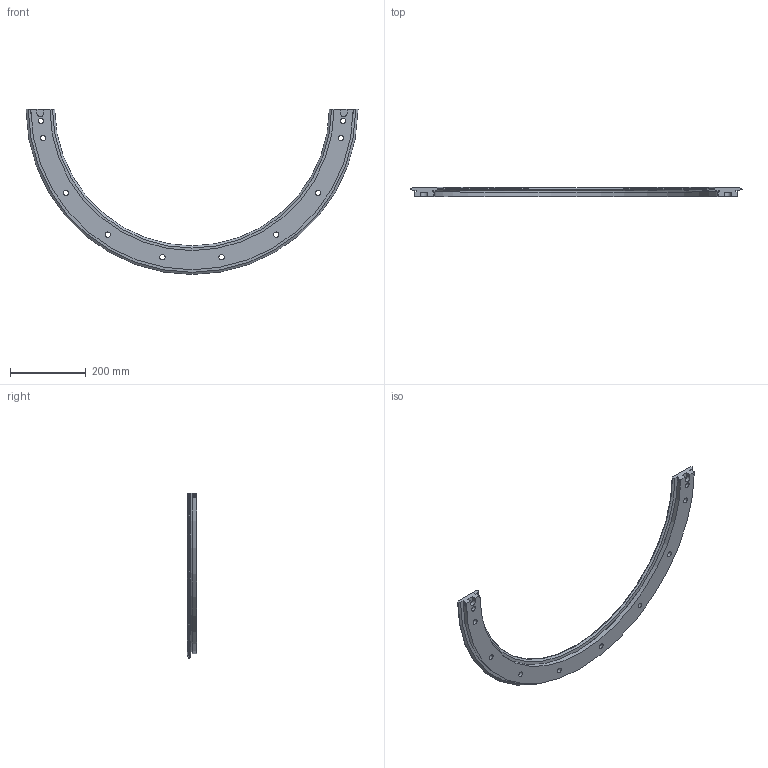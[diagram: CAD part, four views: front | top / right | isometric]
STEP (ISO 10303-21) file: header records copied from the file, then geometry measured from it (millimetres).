
FILE_DESCRIPTION( ( 'STEP AP203' ), '1' );
FILE_NAME( 'p:/temp/worker_25/temp/exporttempdir_3224_209_OOc7l/format_0/TR76 799 R180.stp', '2021-09-17T07:41:23', ( 'License CC BY-ND 4.0' ), ( 'CADENAS' ), ' ', 'PARTsolutions', ' ' );
FILE_SCHEMA( ( 'CONFIG_CONTROL_DESIGN' ) );
Length unit declared in the file: millimetre
Products named in the file (1): _TR76 799 R180
Bounding box: 874.6 x 24 x 434.81 mm (x, y, z)
Volume: 1643639.1 mm3; surface area: 267252.8 mm2
Topology: 1 solids, 1 shells, 92 faces, 219 edges, 147 vertices
Faces by surface type: plane 56, cylinder 30, cone 4, torus 2
Full cylindrical faces by diameter (mm): 8 x4, 14 x10, 20 x10
Entity records: 2900 total; most frequent: CARTESIAN_POINT 750, DIRECTION 426, ORIENTED_EDGE 384, EDGE_CURVE 192, AXIS2_PLACEMENT_3D 157, EDGE_LOOP 154, VERTEX_POINT 145, FACE_OUTER_BOUND 116
